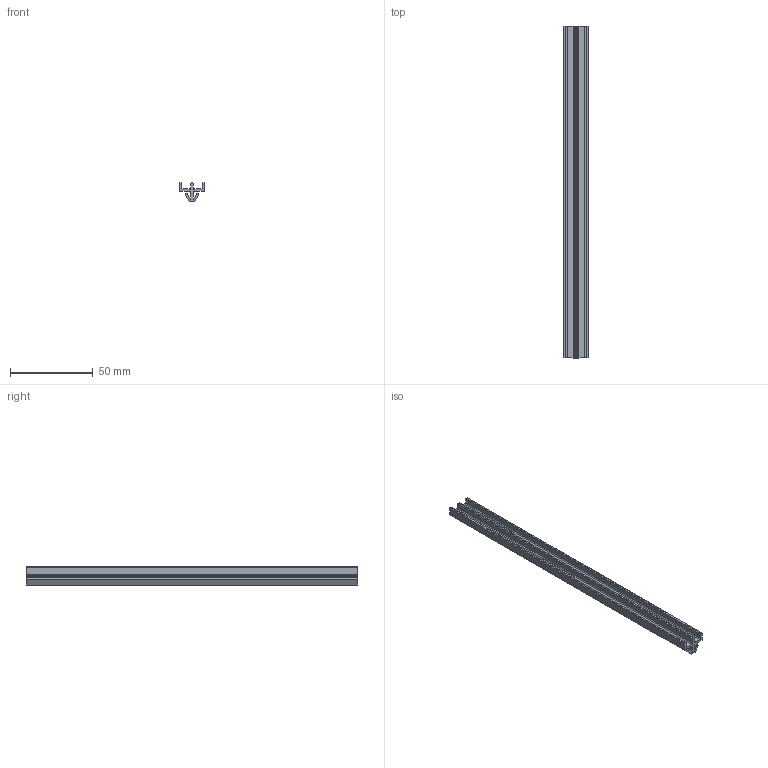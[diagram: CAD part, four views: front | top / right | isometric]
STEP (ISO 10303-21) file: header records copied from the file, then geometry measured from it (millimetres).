
FILE_DESCRIPTION(('STEP AP214'),'1');
FILE_NAME('SG2D-.stp','2016-12-12T05:19:10',(' '),(' '),'Spatial InterOp 3D',' ',' ');
FILE_SCHEMA(('automotive_design'));
Length unit declared in the file: millimetre
Products named in the file (1): SG2D-
Bounding box: 15.5 x 200 x 11 mm (x, y, z)
Volume: 12113 mm3; surface area: 17158.5 mm2
Topology: 1 solids, 1 shells, 50 faces, 144 edges, 96 vertices
Faces by surface type: plane 30, cylinder 20
Entity records: 2064 total; most frequent: CARTESIAN_POINT 291, ORIENTED_EDGE 288, DIRECTION 286, EDGE_CURVE 144, LINE 104, VECTOR 104, VERTEX_POINT 96, AXIS2_PLACEMENT_3D 91
